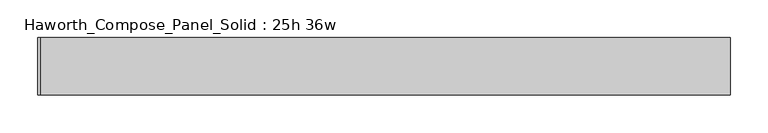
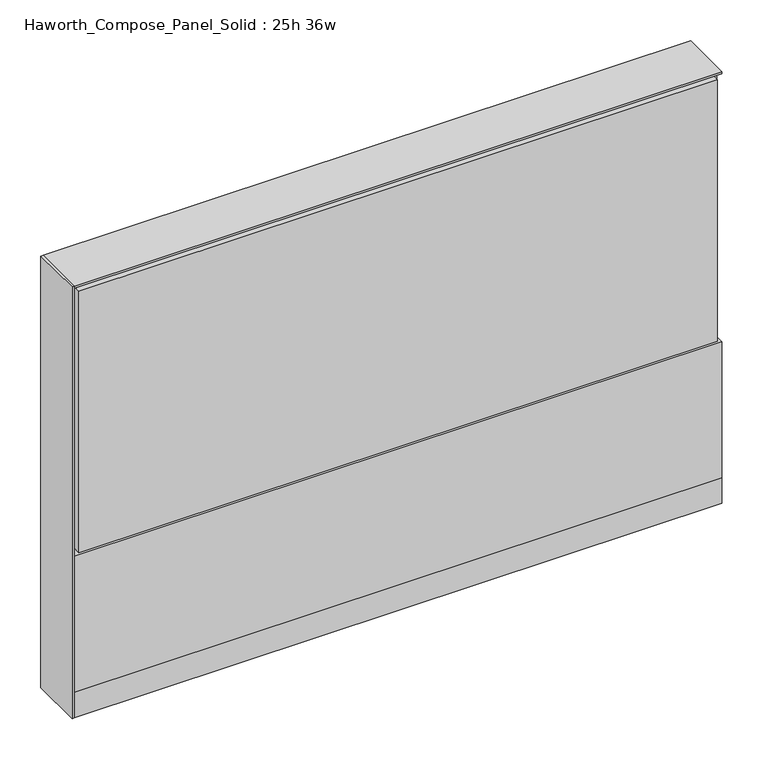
"""IFC4 building model written with IfcOpenShell, lengths in millimetres: furniture geometry, Haworth_Compose_Panel_Solid : 25h 36w."""

from ifc_helpers import new_model, si_unit, point, frame, frame_2d, origin, origin_with_axes, place, context, project, spatial, polyline, circle_curve, trimmed, segment, composite_curve, outline, extrude, source, transform, mapped, element, save


def haworth_compose_panel_solid_25h_36w_280d30b0(model_context):
    return source(origin(), model_context, "Body", "SweptSolid", [
        extrude(outline(composite_curve([segment(trimmed(circle_curve(frame_2d((-378.5597098, 0.0)), 12.7), [point((-391.2597098, 0.0))], [point((-365.8597098, 0.0))], False, "CARTESIAN"), True, "CONTINUOUS"), segment(trimmed(circle_curve(frame_2d((-378.5597098, 0.0)), 12.7), [point((-365.8597098, 0.0))], [point((-391.2597098, 0.0))], False, "CARTESIAN"), True, "CONTINUOUS")], self_intersect=False)), origin_with_axes(), (0.0, 0.0, 1.0), 12.7),
        extrude(outline(composite_curve([segment(trimmed(circle_curve(frame_2d((383.4402902, 0.0)), 12.7), [point((370.7402902, 0.0))], [point((396.1402902, 0.0))], False, "CARTESIAN"), True, "CONTINUOUS"), segment(trimmed(circle_curve(frame_2d((383.4402902, 0.0)), 12.7), [point((396.1402902, 0.0))], [point((370.7402902, 0.0))], False, "CARTESIAN"), True, "CONTINUOUS")], self_intersect=False)), origin_with_axes(), (0.0, 0.0, 1.0), 12.7),
        extrude(outline(polyline([(-457.9347098, 38.1), (-454.7597098, 38.1), (-454.7597098, -38.1), (-457.9347098, -38.1), (-457.9347098, 38.1)])), frame((0.0, 0.0, 12.7), z_axis=(0.0, 0.0, 1.0), x_axis=(1.0, 0.0, 0.0)), (0.0, 0.0, 1.0), 644.525),
        extrude(outline(polyline([(453.2902902, 38.1), (453.2902902, 25.4), (-448.4097098, 25.4), (-448.4097098, 38.1), (453.2902902, 38.1)])), frame((0.0, 0.0, 257.175), z_axis=(0.0, 0.0, 1.0), x_axis=(1.0, 0.0, 0.0)), (0.0, 0.0, 1.0), 390.525),
        extrude(outline(polyline([(459.6402902, 38.1), (459.6402902, 25.4), (-454.7597098, 25.4), (-454.7597098, 38.1), (459.6402902, 38.1)])), frame((0.0, 0.0, 50.8), z_axis=(0.0, 0.0, 1.0), x_axis=(1.0, 0.0, 0.0)), (0.0, 0.0, 1.0), 203.2),
        extrude(outline(polyline([(459.6402902, -38.1), (-454.7597098, -38.1), (-454.7597098, -25.4), (459.6402902, -25.4), (459.6402902, -38.1)])), frame((0.0, 0.0, 50.8), z_axis=(0.0, 0.0, 1.0), x_axis=(1.0, 0.0, 0.0)), (0.0, 0.0, 1.0), 203.2),
        extrude(outline(polyline([(453.2902902, -38.1), (-448.4097098, -38.1), (-448.4097098, -25.4), (453.2902902, -25.4), (453.2902902, -38.1)])), frame((0.0, 0.0, 257.175), z_axis=(0.0, 0.0, 1.0), x_axis=(1.0, 0.0, 0.0)), (0.0, 0.0, 1.0), 390.525),
        extrude(outline(polyline([(459.6402902, 25.4), (459.6402902, -25.4), (-454.7597098, -25.4), (-454.7597098, 25.4), (459.6402902, 25.4)])), frame((0.0, 0.0, 12.7), z_axis=(0.0, 0.0, 1.0), x_axis=(1.0, 0.0, 0.0)), (0.0, 0.0, 1.0), 641.35),
        extrude(outline(polyline([(-454.7597098, -38.1), (-454.7597098, 38.1), (459.6402902, 38.1), (459.6402902, -38.1), (-454.7597098, -38.1)])), frame((0.0, 0.0, 12.7), z_axis=(0.0, 0.0, 1.0), x_axis=(1.0, 0.0, 0.0)), (0.0, 0.0, 1.0), 38.1),
        extrude(outline(polyline([(-454.7597098, -38.1), (-454.7597098, 38.1), (459.6402902, 38.1), (459.6402902, -38.1), (-454.7597098, -38.1)])), frame((0.0, 0.0, 654.05), z_axis=(0.0, 0.0, 1.0), x_axis=(1.0, 0.0, 0.0)), (0.0, 0.0, 1.0), 3.175),
    ])


if __name__ == "__main__":
    model = new_model("IFC4")
    model_context = context("Model", 3, world=origin())
    ifc_project = project(units=[si_unit("LENGTHUNIT", "METRE", prefix="MILLI")], contexts=[model_context])
    site = spatial("IfcSite", under=ifc_project)
    building = spatial("IfcBuilding", under=site)
    placement = place(None, origin())
    haworth_compose_panel_solid_25h_36w_shape = haworth_compose_panel_solid_25h_36w_280d30b0(model_context)
    element("IfcFurniture", 1, ObjectType="Haworth_Compose_Panel_Solid : 25h 36w", at=placement, inside=building, context=model_context, shape_type="MappedRepresentation", body=[
        mapped(haworth_compose_panel_solid_25h_36w_shape, transform((0.0, 0.0, 0.0), x_axis=(1.0, 0.0, 0.0), y_axis=(0.0, 1.0, 0.0), z_axis=(0.0, 0.0, 1.0))),
    ])
    save(model, "model.ifc")
